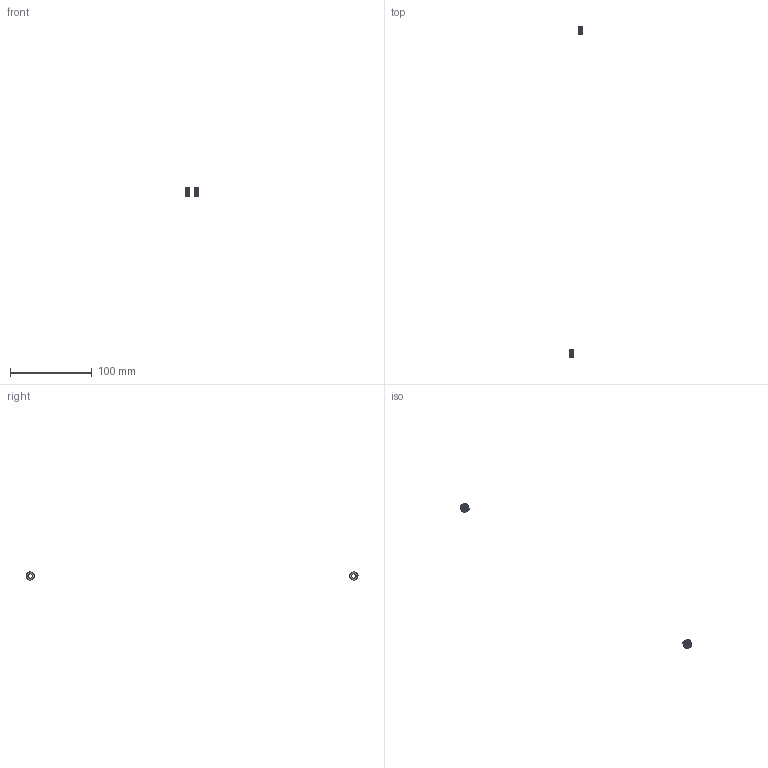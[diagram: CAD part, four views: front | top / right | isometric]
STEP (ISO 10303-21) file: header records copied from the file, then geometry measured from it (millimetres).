
FILE_DESCRIPTION(/* description */ (''),/* implementation_level */ '2;1');
FILE_NAME(/* name */ '4.frame-door#4.6#PWF5',/* time_stamp */ '2014-12-01T20:12:57+01:00',/* author */ (''),/* organization */ (''),/* preprocessor_version */ 'ST-DEVELOPER v14',/* originating_system */ '',/* authorisation */ '');
FILE_SCHEMA (('AUTOMOTIVE_DESIGN'));
Length unit declared in the file: millimetre
Products named in the file (1): Document
Bounding box: 16 x 406 x 10 mm (x, y, z)
Surface area: 1612.7 mm2 (no closed solid volume)
Topology: 0 solids, 60 shells, 60 faces, 200 edges, 200 vertices
Faces by surface type: bspline 40, plane 20
Entity records: 4959 total; most frequent: CARTESIAN_POINT 2541, B_SPLINE_CURVE_WITH_KNOTS 240, ORIENTED_EDGE 200, PCURVE 200, DEFINITIONAL_REPRESENTATION 200, SURFACE_CURVE 200, EDGE_CURVE 200, VERTEX_POINT 200
